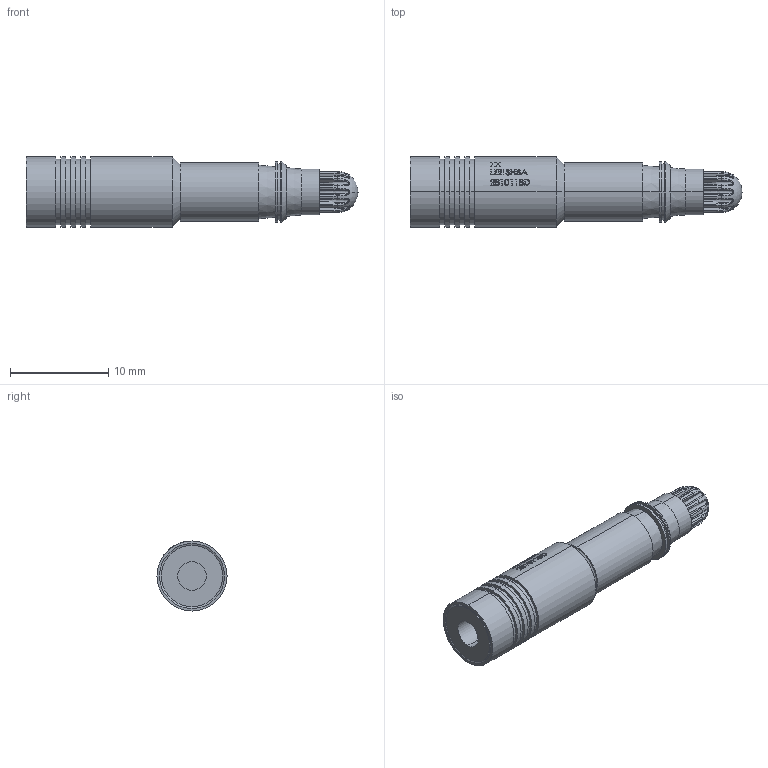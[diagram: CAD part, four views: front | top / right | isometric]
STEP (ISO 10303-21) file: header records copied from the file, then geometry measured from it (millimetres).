
FILE_DESCRIPTION (( 'STEP AP214' ), '1' );
FILE_NAME ('3DSHBA2810118D.STEP', '2021-04-01T12:43:39', ( '' ), ( '' ), 'SwSTEP 2.0', 'SolidWorks 2019', '' );
FILE_SCHEMA (( 'AUTOMOTIVE_DESIGN' ));
Length unit declared in the file: inch
Products named in the file (1): 3DSHBA2810118D
Bounding box: 33.78 x 7.14 x 7.14 mm (x, y, z)
Volume: 941.7 mm3; surface area: 891.6 mm2
Topology: 2 solids, 2 shells, 395 faces, 992 edges, 643 vertices
Faces by surface type: bspline 157, plane 132, cylinder 70, torus 24, cone 10, sphere 2
Entity records: 20844 total; most frequent: CARTESIAN_POINT 8261, ORIENTED_EDGE 1984, DIRECTION 1298, EDGE_CURVE 992, VERTEX_POINT 643, AXIS2_PLACEMENT_3D 515, EDGE_LOOP 437, B_SPLINE_CURVE_WITH_KNOTS 400
